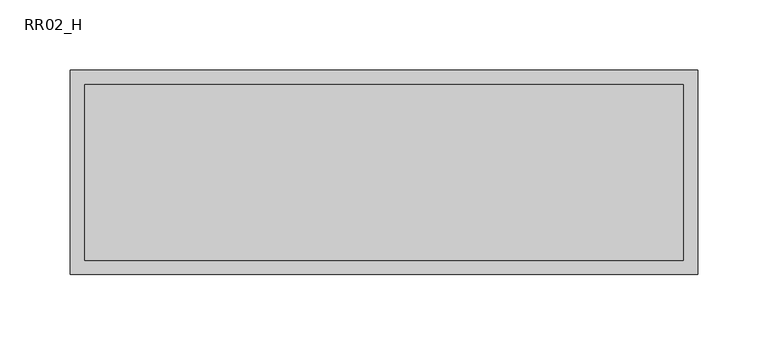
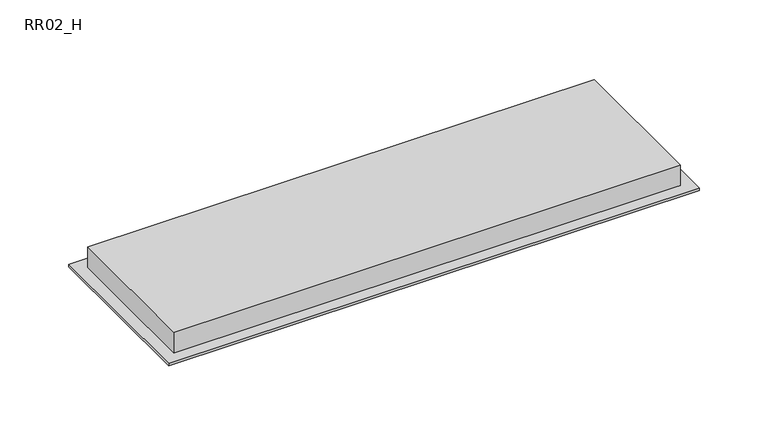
"""IFC4 building model written with IfcOpenShell, lengths in millimetres: air terminal geometry, ZYR_03.06.04.01 Reixa Sostre Retorn : RR02_H."""

from ifc_helpers import new_model, si_unit, origin, origin_with_axes, place, context, project, spatial, polyline, outline, extrude, source, transform, mapped, element, save


def rr02_h_4d5ca320(model_context):
    return source(origin(), model_context, "Body", "SweptSolid", [
        extrude(outline(polyline([(212.5, 62.5), (212.5, -62.5), (-212.5, -62.5), (-212.5, 62.5), (212.5, 62.5)])), origin_with_axes(), (0.0, 0.0, 1.0), 20.0),
        extrude(outline(polyline([(222.5, 72.5), (222.5, -72.5), (-222.5, -72.5), (-222.5, 72.5), (222.5, 72.5)]), holes=[polyline([(212.5, 62.5), (-212.5, 62.5), (-212.5, -62.5), (212.5, -62.5), (212.5, 62.5)])]), origin_with_axes(), (0.0, 0.0, 1.0), 2.0),
    ])


if __name__ == "__main__":
    model = new_model("IFC4")
    model_context = context("Model", 3, world=origin())
    ifc_project = project(units=[si_unit("LENGTHUNIT", "METRE", prefix="MILLI")], contexts=[model_context])
    site = spatial("IfcSite", under=ifc_project)
    building = spatial("IfcBuilding", under=site)
    placement = place(None, origin())
    rr02_h_shape = rr02_h_4d5ca320(model_context)
    element("IfcAirTerminal", 1, ObjectType="ZYR_03.06.04.01 Reixa Sostre Retorn : RR02_H", at=placement, inside=building, context=model_context, shape_type="MappedRepresentation", body=[
        mapped(rr02_h_shape, transform((0.0, 0.0, 0.0), x_axis=(1.0, 0.0, 0.0), y_axis=(0.0, 1.0, 0.0), z_axis=(0.0, 0.0, 1.0))),
    ])
    save(model, "model.ifc")
